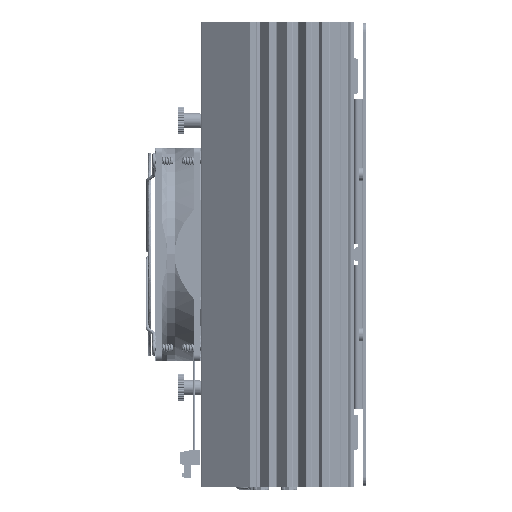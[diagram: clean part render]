
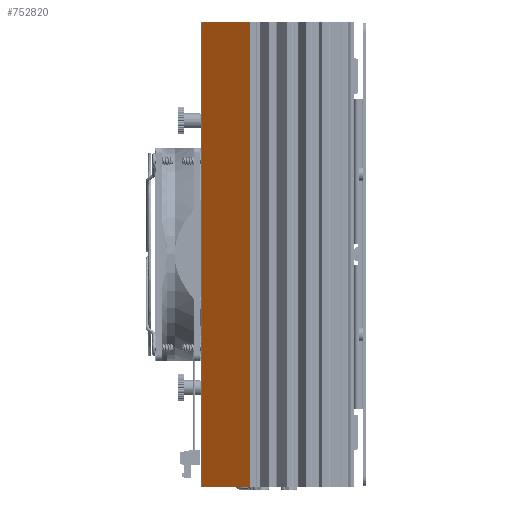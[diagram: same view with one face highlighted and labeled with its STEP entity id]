
A CAD part, left-side view. The second image highlights one B-rep face of the part: STEP entity #752820.
In plain terms, the highlighted planar face has unit normal (-0.819, 0.574, 0).
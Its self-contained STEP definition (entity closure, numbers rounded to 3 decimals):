
#28348 = AXIS2_PLACEMENT_3D ( 'NONE', #773408, #770559, #105906 ) ;
#61623 = CARTESIAN_POINT ( 'NONE',  ( -113.398, -7.532, 130.5 ) ) ;
#61888 = CARTESIAN_POINT ( 'NONE',  ( -94.42, 19.571, 130.5 ) ) ;
#105906 = DIRECTION ( 'NONE',  ( 0.574, 0.819, 0. ) ) ;
#111411 = VERTEX_POINT ( 'NONE', #61623 ) ;
#125921 = DIRECTION ( 'NONE',  ( 0., 0., 1. ) ) ;
#172447 = VECTOR ( 'NONE', #551520, 1000. ) ;
#176172 = ORIENTED_EDGE ( 'NONE', *, *, #668559, .T. ) ;
#183060 = ORIENTED_EDGE ( 'NONE', *, *, #522819, .F. ) ;
#195859 = VECTOR ( 'NONE', #231540, 1000. ) ;
#208501 = VECTOR ( 'NONE', #541286, 1000. ) ;
#224577 = ORIENTED_EDGE ( 'NONE', *, *, #411426, .T. ) ;
#231540 = DIRECTION ( 'NONE',  ( 0., 0., -1. ) ) ;
#234358 = CARTESIAN_POINT ( 'NONE',  ( -94.42, 19.571, 130.5 ) ) ;
#247946 = VERTEX_POINT ( 'NONE', #715439 ) ;
#252588 = CARTESIAN_POINT ( 'NONE',  ( -113.398, -7.532, -130.5 ) ) ;
#318475 = CARTESIAN_POINT ( 'NONE',  ( -113.398, -7.532, 130.5 ) ) ;
#322082 = VERTEX_POINT ( 'NONE', #61888 ) ;
#350008 = LINE ( 'NONE', #548562, #172447 ) ;
#352745 = FACE_OUTER_BOUND ( 'NONE', #854454, .T. ) ;
#391604 = EDGE_CURVE ( 'NONE', #247946, #643271, #350008, .T. ) ;
#411426 = EDGE_CURVE ( 'NONE', #322082, #247946, #842549, .T. ) ;
#471417 = CARTESIAN_POINT ( 'NONE',  ( -94.26, 19.8, 130.5 ) ) ;
#500680 = LINE ( 'NONE', #471417, #208501 ) ;
#510089 = LINE ( 'NONE', #318475, #739332 ) ;
#516868 = PLANE ( 'NONE',  #28348 ) ;
#522819 = EDGE_CURVE ( 'NONE', #322082, #111411, #500680, .T. ) ;
#541286 = DIRECTION ( 'NONE',  ( -0.574, -0.819, 0. ) ) ;
#548562 = CARTESIAN_POINT ( 'NONE',  ( -94.26, 19.8, -130.5 ) ) ;
#551520 = DIRECTION ( 'NONE',  ( -0.574, -0.819, 0. ) ) ;
#643271 = VERTEX_POINT ( 'NONE', #252588 ) ;
#668559 = EDGE_CURVE ( 'NONE', #643271, #111411, #510089, .T. ) ;
#715439 = CARTESIAN_POINT ( 'NONE',  ( -94.42, 19.571, -130.5 ) ) ;
#739332 = VECTOR ( 'NONE', #125921, 1000. ) ;
#752820 = ADVANCED_FACE ( 'NONE', ( #352745 ), #516868, .F. ) ;
#770559 = DIRECTION ( 'NONE',  ( 0.819, -0.574, 0. ) ) ;
#773408 = CARTESIAN_POINT ( 'NONE',  ( -94.26, 19.8, 130.5 ) ) ;
#806206 = ORIENTED_EDGE ( 'NONE', *, *, #391604, .T. ) ;
#842549 = LINE ( 'NONE', #234358, #195859 ) ;
#854454 = EDGE_LOOP ( 'NONE', ( #806206, #176172, #183060, #224577 ) ) ;
